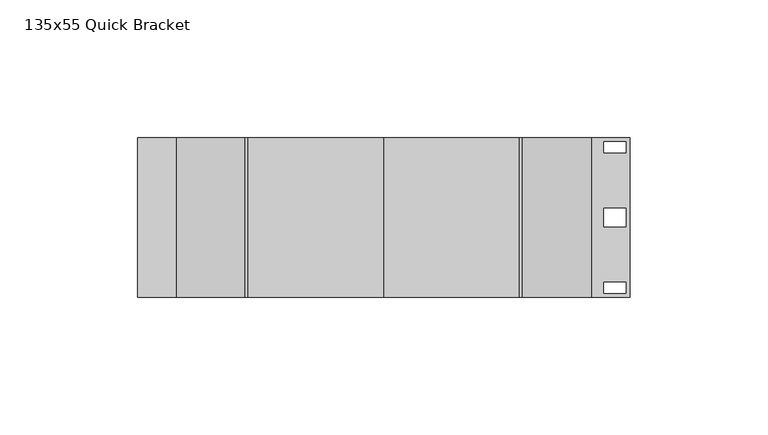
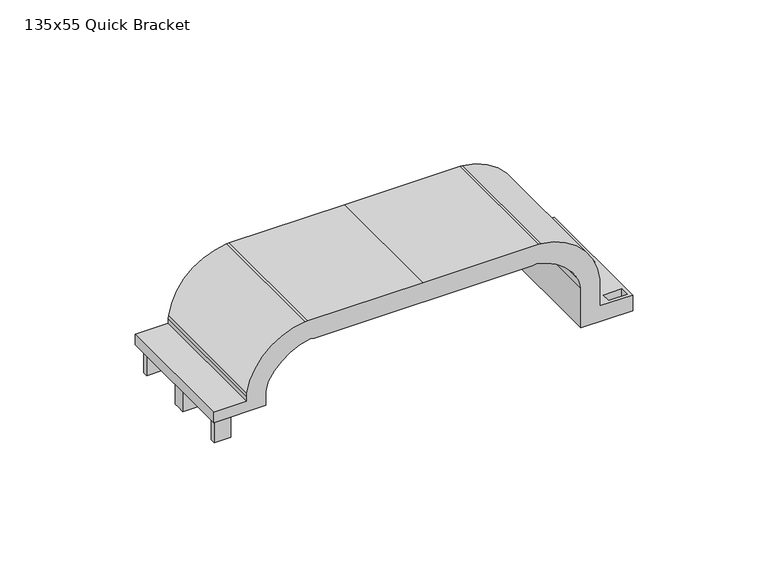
"""IFC4 building model written with IfcOpenShell, lengths in millimetres: damper geometry, Renson_Easyflex_Quick_Bracket_S : 135x55 Quick Bracket."""

from ifc_helpers import new_model, si_unit, frame, origin, place, context, project, spatial, polyline, circle_curve, outline, extrude, source, transform, mapped, element, save
from ifc_brep_helpers import plane_surface, cylinder_surface, revolved_surface, advanced_brep


def damper_135x55_quick_bracket_1c072f0f(model_context):
    return source(origin(), model_context, "Body", "SolidModel", [
        advanced_brep(
        [(-75.2560063, -29.0, -15.8623917), (-75.3718755, -29.0, -17.3802709), (-75.3718755, -29.0, -19.4490332), (-89.5, -29.0, -19.4490332), (-89.5, -29.0, -24.1490332), (-67.2, -29.0, -24.1490332), (-67.2, -29.0, -18.3041439), (-66.0815445, -29.0, -13.7086933), (-48.3372795, -29.0, -0.660256), (-46.5097967, -29.0, -1.0), (46.5097967, -29.0, -1.0), (48.3372795, -29.0, -0.660256), (66.0828702, -29.0, -13.7077297), (67.2025211, -29.0, -18.30549), (67.2025211, -29.0, -36.2), (89.5, -29.0, -36.2), (89.5, -29.0, -29.2), (75.4860583, -29.0, -29.2), (75.4860583, -29.0, -18.2715756), (75.433624, -29.0, -17.2488658), (50.3386536, -29.0, 7.751363), (49.3535773, -29.0, 7.8), (0.0, -29.0, 7.8), (-49.3535773, -29.0, 7.8), (-50.3386536, -29.0, 7.751363), (-75.2560063, 29.0, -15.8623917), (-50.3386536, 29.0, 7.751363), (-49.3535773, 29.0, 7.8), (0.0, 29.0, 7.8), (49.3535773, 29.0, 7.8), (50.3386536, 29.0, 7.751363), (75.433624, 29.0, -17.2488658), (75.4860583, 29.0, -18.2715756), (75.4860583, 29.0, -29.2), (89.5, 29.0, -29.2), (89.5, 29.0, -36.2), (67.2025211, 29.0, -36.2), (67.2025211, 29.0, -18.30549), (66.0828702, 29.0, -13.7077297), (48.3372795, 29.0, -0.660256), (46.5097967, 29.0, -1.0), (-46.5097967, 29.0, -1.0), (-48.3372795, 29.0, -0.660256), (-66.0815445, 29.0, -13.7086933), (-67.2, 29.0, -18.3041439), (-67.2, 29.0, -24.1490332), (-89.5, 29.0, -24.1490332), (-89.5, 29.0, -19.4490332), (-75.3718755, 29.0, -19.4490332), (-75.3718755, 29.0, -17.3802709), (88.0356092, 23.5, -29.2), (88.0356092, 27.5, -29.2), (88.0356092, 27.5, -36.2), (88.0356092, 23.5, -36.2), (80.0184224, 23.5, -29.2), (80.0184224, 23.5, -36.2), (80.0184224, 27.5, -29.2), (80.0184224, 27.5, -36.2), (88.0356092, -3.2953538, -29.2), (88.0356092, 3.2953538, -29.2), (88.0356092, 3.2953538, -36.2), (88.0356092, -3.2953538, -36.2), (80.0184224, -3.2953538, -29.2), (80.0184224, -3.2953538, -36.2), (80.0184224, 3.2953538, -29.2), (80.0184224, 3.2953538, -36.2), (88.0356092, -27.5, -29.2), (88.0356092, -23.5, -29.2), (88.0356092, -23.5, -36.2), (88.0356092, -27.5, -36.2), (80.0184224, -27.5, -29.2), (80.0184224, -27.5, -36.2), (80.0184224, -23.5, -29.2), (80.0184224, -23.5, -36.2)],
        [
            (0, 1, circle_curve(frame((-65.3718755, -29.0, -17.3802709), z_axis=(0.0, -1.0, 0.0), x_axis=(1.0, 0.0, 0.0)), 10.0)),
            (1, 2),
            (2, 3),
            (3, 4),
            (4, 5),
            (5, 6),
            (6, 7, circle_curve(frame((-57.2, -29.0, -18.3041439), z_axis=(0.0, 1.0, 0.0), x_axis=(1.0, 0.0, 0.0)), 10.0)),
            (7, 8, circle_curve(frame((-44.0161599, -29.0, -25.12567), z_axis=(0.0, 1.0, 0.0), x_axis=(1.0, 0.0, 0.0)), 24.844085)),
            (8, 9),
            (9, 10),
            (10, 11),
            (11, 12, circle_curve(frame((44.011514, -29.0, -25.1350738), z_axis=(0.0, 1.0, 0.0), x_axis=(1.0, 0.0, 0.0)), 24.8541537)),
            (12, 13, circle_curve(frame((57.2025211, -29.0, -18.30549), z_axis=(0.0, 1.0, 0.0), x_axis=(1.0, 0.0, 0.0)), 10.0)),
            (13, 14),
            (14, 15),
            (15, 16),
            (16, 17),
            (17, 18),
            (18, 19, circle_curve(frame((65.4860583, -29.0, -18.2715756), z_axis=(0.0, -1.0, 0.0), x_axis=(1.0, 0.0, 0.0)), 10.0)),
            (19, 20, circle_curve(frame((47.5804399, -29.0, -20.1124533), z_axis=(0.0, -1.0, 0.0), x_axis=(1.0, 0.0, 0.0)), 28.0)),
            (20, 21, circle_curve(frame((49.3535773, -29.0, -2.2), z_axis=(0.0, -1.0, 0.0), x_axis=(1.0, 0.0, 0.0)), 10.0)),
            (21, 22),
            (22, 23),
            (23, 24, circle_curve(frame((-49.3535773, -29.0, -2.2), z_axis=(0.0, -1.0, 0.0), x_axis=(1.0, 0.0, 0.0)), 10.0)),
            (24, 0, circle_curve(frame((-47.5804399, -29.0, -20.1124533), z_axis=(0.0, -1.0, 0.0), x_axis=(-1.0, 0.0, 0.0)), 28.0)),
            (25, 26, circle_curve(frame((-47.5804399, 29.0, -20.1124533), z_axis=(0.0, 1.0, 0.0), x_axis=(-1.0, 0.0, 0.0)), 28.0)),
            (26, 27, circle_curve(frame((-49.3535773, 29.0, -2.2), z_axis=(0.0, 1.0, 0.0), x_axis=(1.0, 0.0, 0.0)), 10.0)),
            (27, 28),
            (28, 29),
            (29, 30, circle_curve(frame((49.3535773, 29.0, -2.2), z_axis=(0.0, 1.0, 0.0), x_axis=(1.0, 0.0, 0.0)), 10.0)),
            (30, 31, circle_curve(frame((47.5804399, 29.0, -20.1124533), z_axis=(0.0, 1.0, 0.0), x_axis=(1.0, 0.0, 0.0)), 28.0)),
            (31, 32, circle_curve(frame((65.4860583, 29.0, -18.2715756), z_axis=(0.0, 1.0, 0.0), x_axis=(1.0, 0.0, 0.0)), 10.0)),
            (32, 33),
            (33, 34),
            (34, 35),
            (35, 36),
            (36, 37),
            (37, 38, circle_curve(frame((57.2025211, 29.0, -18.30549), z_axis=(0.0, -1.0, 0.0), x_axis=(1.0, 0.0, 0.0)), 10.0)),
            (38, 39, circle_curve(frame((44.011514, 29.0, -25.1350738), z_axis=(0.0, -1.0, 0.0), x_axis=(1.0, 0.0, 0.0)), 24.8541537)),
            (39, 40),
            (40, 41),
            (41, 42),
            (42, 43, circle_curve(frame((-44.0161599, 29.0, -25.12567), z_axis=(0.0, -1.0, 0.0), x_axis=(1.0, 0.0, 0.0)), 24.844085)),
            (43, 44, circle_curve(frame((-57.2, 29.0, -18.3041439), z_axis=(0.0, -1.0, 0.0), x_axis=(1.0, 0.0, 0.0)), 10.0)),
            (44, 45),
            (45, 46),
            (46, 47),
            (47, 48),
            (48, 49),
            (49, 25, circle_curve(frame((-65.3718755, 29.0, -17.3802709), z_axis=(0.0, 1.0, 0.0), x_axis=(1.0, 0.0, 0.0)), 10.0)),
            (34, 16),
            (15, 35),
            (50, 51),
            (51, 52),
            (52, 53),
            (53, 50),
            (54, 50),
            (53, 55),
            (55, 54),
            (51, 56),
            (56, 57),
            (57, 52),
            (58, 59),
            (59, 60),
            (60, 61),
            (61, 58),
            (62, 58),
            (61, 63),
            (63, 62),
            (59, 64),
            (64, 65),
            (65, 60),
            (66, 67),
            (67, 68),
            (68, 69),
            (69, 66),
            (70, 66),
            (69, 71),
            (71, 70),
            (67, 72),
            (72, 73),
            (73, 68),
            (3, 47),
            (46, 4),
            (45, 5),
            (14, 36),
            (57, 55),
            (65, 63),
            (73, 71),
            (56, 54),
            (64, 62),
            (72, 70),
            (33, 17),
            (32, 18),
            (31, 19),
            (30, 20),
            (29, 21),
            (28, 22),
            (27, 23),
            (26, 24),
            (25, 0),
            (9, 41),
            (40, 10),
            (49, 1),
            (48, 2),
            (8, 42),
            (39, 11),
            (44, 6),
            (43, 7),
            (38, 12),
            (37, 13),
        ],
        [
            plane_surface(frame((-55.3718755, -29.0, -17.3802709), z_axis=(0.0, -1.0, 0.0), x_axis=(0.0, 0.0, 1.0))),
            plane_surface(frame((-55.3718755, 29.0, -17.3802709), z_axis=(0.0, 1.0, 0.0), x_axis=(0.0, 0.0, -1.0))),
            plane_surface(frame((89.5, -29.0, -29.2), z_axis=(1.0, 0.0, 0.0), x_axis=(0.0, 0.0, -1.0))),
            plane_surface(frame((88.0356092, 27.5, -29.2), z_axis=(-1.0, 0.0, 0.0), x_axis=(0.0, 0.0, -1.0))),
            plane_surface(frame((88.0356092, 23.5, -29.2), z_axis=(0.0, 1.0, 0.0), x_axis=(0.0, 0.0, -1.0))),
            plane_surface(frame((80.0184224, 27.5, -29.2), z_axis=(0.0, -1.0, 0.0), x_axis=(0.0, 0.0, -1.0))),
            plane_surface(frame((88.0356092, 3.2953538, -29.2), z_axis=(-1.0, 0.0, 0.0), x_axis=(0.0, 0.0, -1.0))),
            plane_surface(frame((88.0356092, -3.2953538, -29.2), z_axis=(0.0, 1.0, 0.0), x_axis=(0.0, 0.0, -1.0))),
            plane_surface(frame((80.0184224, 3.2953538, -29.2), z_axis=(0.0, -1.0, 0.0), x_axis=(0.0, 0.0, -1.0))),
            plane_surface(frame((88.0356092, -23.5, -29.2), z_axis=(-1.0, 0.0, 0.0), x_axis=(0.0, 0.0, -1.0))),
            plane_surface(frame((88.0356092, -27.5, -29.2), z_axis=(0.0, 1.0, 0.0), x_axis=(0.0, 0.0, -1.0))),
            plane_surface(frame((80.0184224, -23.5, -29.2), z_axis=(0.0, -1.0, 0.0), x_axis=(0.0, 0.0, -1.0))),
            plane_surface(frame((-89.5, -29.0, -19.4490332), z_axis=(-1.0, 0.0, 0.0), x_axis=(0.0, 1.0, 0.0))),
            plane_surface(frame((-89.5, -29.0, -24.1490332), z_axis=(0.0, 0.0, -1.0), x_axis=(0.0, 1.0, 0.0))),
            plane_surface(frame((67.2025211, -29.0, -36.2), z_axis=(0.0, 0.0, -1.0), x_axis=(0.0, 1.0, 0.0))),
            plane_surface(frame((80.0184224, -29.0, -36.2), z_axis=(1.0, 0.0, 0.0), x_axis=(0.0, 1.0, 0.0))),
            plane_surface(frame((80.0184224, -29.0, -29.2), z_axis=(0.0, 0.0, 1.0), x_axis=(0.0, 1.0, 0.0))),
            plane_surface(frame((75.4860583, -29.0, -29.2), z_axis=(1.0, 0.0, 0.0), x_axis=(0.0, 1.0, 0.0))),
            cylinder_surface(frame((65.4860583, 29.0, -18.2715756), z_axis=(0.0, -1.0, 0.0), x_axis=(1.0, 0.0, 0.0)), 10.0),
            cylinder_surface(frame((47.5804399, 29.0, -20.1124533), z_axis=(0.0, -1.0, 0.0), x_axis=(1.0, 0.0, 0.0)), 28.0),
            cylinder_surface(frame((49.3535773, 29.0, -2.2), z_axis=(0.0, -1.0, 0.0), x_axis=(1.0, 0.0, 0.0)), 10.0),
            plane_surface(frame((49.3535773, -29.0, 7.8), z_axis=(0.0, 0.0, 1.0), x_axis=(0.0, 1.0, 0.0))),
            plane_surface(frame((0.0, -29.0, 7.8), z_axis=(0.0, 0.0, 1.0), x_axis=(0.0, 1.0, 0.0))),
            cylinder_surface(frame((-49.3535773, 29.0, -2.2), z_axis=(0.0, -1.0, 0.0), x_axis=(1.0, 0.0, 0.0)), 10.0),
            cylinder_surface(frame((-47.5804399, 29.0, -20.1124533), z_axis=(0.0, -1.0, 0.0), x_axis=(-1.0, 0.0, 0.0)), 28.0),
            plane_surface(frame((-46.5097967, -29.0, -1.0), z_axis=(0.0, 0.0, -1.0), x_axis=(0.0, 1.0, 0.0))),
            cylinder_surface(frame((-65.3718755, 29.0, -17.3802709), z_axis=(0.0, -1.0, 0.0), x_axis=(1.0, 0.0, 0.0)), 10.0),
            plane_surface(frame((-75.3718755, -29.0, -17.3802709), z_axis=(-1.0, 0.0, 0.0), x_axis=(0.0, 1.0, 0.0))),
            plane_surface(frame((-75.3718755, -29.0, -19.4490332), z_axis=(0.0, 0.0, 1.0), x_axis=(0.0, 1.0, 0.0))),
            plane_surface(frame((-48.3372795, -29.0, -0.660256), z_axis=(-0.182776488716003, 0.0, -0.983154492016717), x_axis=(0.0, 1.0, 0.0))),
            plane_surface(frame((46.5097967, -29.0, -1.0), z_axis=(0.18277648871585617, 0.0, -0.9831544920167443), x_axis=(0.0, 1.0, 0.0))),
            plane_surface(frame((-67.2, -29.0, -24.1490332), z_axis=(1.0, 0.0, 0.0), x_axis=(0.0, 1.0, 0.0))),
            revolved_surface(polyline([(-47.2, 29.0, -18.3041439), (-47.2, -29.0, -18.3041439)]), (-57.2, 29.0, -18.3041439), (0.0, 1.0, 0.0)),
            revolved_surface(polyline([(-19.1720749, 29.0, -25.12567), (-19.1720749, -29.0, -25.12567)]), (-44.0161599, 29.0, -25.12567), (0.0, 1.0, 0.0)),
            revolved_surface(polyline([(68.8656677, 29.0, -25.1350738), (68.8656677, -29.0, -25.1350738)]), (44.011514, 29.0, -25.1350738), (0.0, 1.0, 0.0)),
            revolved_surface(polyline([(67.2025211, 29.0, -18.30549), (67.2025211, -29.0, -18.30549)]), (57.2025211, 29.0, -18.30549), (0.0, 1.0, 0.0)),
            plane_surface(frame((67.2025211, -29.0, -18.30549), z_axis=(-1.0, 0.0, 0.0), x_axis=(0.0, 1.0, 0.0))),
        ],
        [
            (0, [[1, 2, 3, 4, 5, 6, 7, 8, 9, 10, 11, 12, 13, 14, 15, 16, 17, 18, 19, 20, 21, 22, 23, 24, 25]]),
            (1, [[26, 27, 28, 29, 30, 31, 32, 33, 34, 35, 36, 37, 38, 39, 40, 41, 42, 43, 44, 45, 46, 47, 48, 49, 50]]),
            (2, [[51, -16, 52, -35]]),
            (3, [[53, 54, 55, 56]]),
            (4, [[57, -56, 58, 59]]),
            (5, [[60, 61, 62, -54]]),
            (6, [[63, 64, 65, 66]]),
            (7, [[67, -66, 68, 69]]),
            (8, [[70, 71, 72, -64]]),
            (9, [[73, 74, 75, 76]]),
            (10, [[77, -76, 78, 79]]),
            (11, [[80, 81, 82, -74]]),
            (12, [[-4, 83, -47, 84]]),
            (13, [[-5, -84, -46, 85]]),
            (14, [[-15, 86, -36, -52], [87, -58, -55, -62], [88, -68, -65, -72], [89, -78, -75, -82]]),
            (15, [[-87, -61, 90, -59]]),
            (15, [[-88, -71, 91, -69]]),
            (15, [[-89, -81, 92, -79]]),
            (16, [[-34, 93, -17, -51], [-90, -60, -53, -57], [-91, -70, -63, -67], [-92, -80, -73, -77]]),
            (17, [[-18, -93, -33, 94]]),
            (18, [[-19, -94, -32, 95]]),
            (19, [[-20, -95, -31, 96]]),
            (20, [[-21, -96, -30, 97]]),
            (21, [[-22, -97, -29, 98]]),
            (22, [[-23, -98, -28, 99]]),
            (23, [[-24, -99, -27, 100]]),
            (24, [[-25, -100, -26, 101]]),
            (25, [[-10, 102, -41, 103]]),
            (26, [[-1, -101, -50, 104]]),
            (27, [[-2, -104, -49, 105]]),
            (28, [[-3, -105, -48, -83]]),
            (29, [[-9, 106, -42, -102]]),
            (30, [[-11, -103, -40, 107]]),
            (31, [[-6, -85, -45, 108]]),
            (32, [[-7, -108, -44, 109]]),
            (33, [[-8, -109, -43, -106]]),
            (34, [[-12, -107, -39, 110]]),
            (35, [[-13, -110, -38, 111]]),
            (36, [[-14, -111, -37, -86]]),
        ],
    ),
        extrude(outline(polyline([(-80.5184224, 26.0), (-80.5184224, 24.0), (-87.5356092, 24.0), (-87.5356092, 26.0), (-80.5184224, 26.0)])), frame((0.0, 0.0, -35.6819444), z_axis=(0.0, 0.0, 1.0), x_axis=(1.0, 0.0, 0.0)), (0.0, 0.0, 1.0), 11.5329111),
        extrude(outline(polyline([(-80.5184224, -24.0), (-80.5184224, -26.0), (-87.5356092, -26.0), (-87.5356092, -24.0), (-80.5184224, -24.0)])), frame((0.0, 0.0, -35.6819444), z_axis=(0.0, 0.0, 1.0), x_axis=(1.0, 0.0, 0.0)), (0.0, 0.0, 1.0), 11.5329111),
        extrude(outline(polyline([(-0.4347662, -24.1490332), (2.7953538, -24.1490332), (2.7953538, -35.6819444), (0.3422502, -35.6819444), (-2.7953538, -35.6819444), (-2.7953538, -24.1490332), (-0.4347662, -24.1490332)])), frame((-87.5356092, 0.0, 0.0), z_axis=(1.0, 0.0, 0.0), x_axis=(0.0, 1.0, 0.0)), (0.0, 0.0, 1.0), 7.0171868),
    ])


if __name__ == "__main__":
    model = new_model("IFC4")
    model_context = context("Model", 3, world=origin())
    ifc_project = project(units=[si_unit("LENGTHUNIT", "METRE", prefix="MILLI")], contexts=[model_context])
    site = spatial("IfcSite", under=ifc_project)
    building = spatial("IfcBuilding", under=site)
    placement = place(None, origin())
    damper_135x55_quick_bracket_shape = damper_135x55_quick_bracket_1c072f0f(model_context)
    element("IfcDamper", 1, ObjectType="Renson_Easyflex_Quick_Bracket_S : 135x55 Quick Bracket", at=placement, inside=building, context=model_context, shape_type="MappedRepresentation", body=[
        mapped(damper_135x55_quick_bracket_shape, transform((0.0, 0.0, 0.0), x_axis=(1.0, 0.0, 0.0), y_axis=(0.0, 1.0, 0.0), z_axis=(0.0, 0.0, 1.0))),
    ])
    save(model, "model.ifc")
